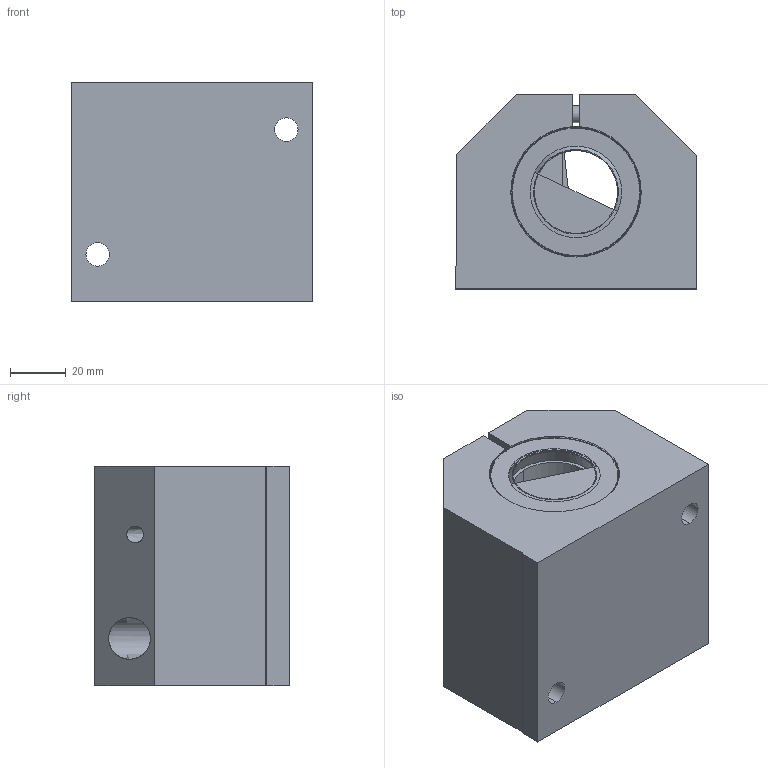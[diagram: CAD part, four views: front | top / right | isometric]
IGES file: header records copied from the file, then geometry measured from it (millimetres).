
Start section: 3D InterOp IGES (Version 21 0 1), Spatial Corp. Copyright (c) 1999-2007.
Global section: file name: SLS-30.igs; native system: Spatial Corp.; preprocessor: 3D InterOp GENERIC/IGES 3.0; author: Noname; organization: Noname; date: 20220309.161045; units: millimetre
Bounding box: 87 x 70 x 79 mm (x, y, z)
Surface area: 53418.8 mm2 (no closed solid volume)
Topology: 0 solids, 0 shells, 136 faces, 662 edges, 652 vertices
Faces by surface type: revolution 95, extrusion 41
